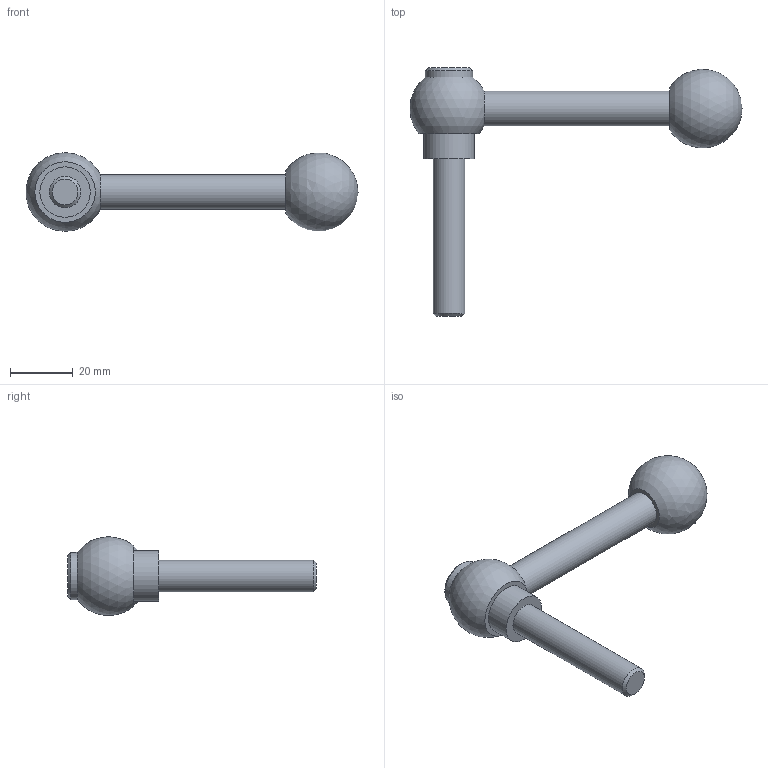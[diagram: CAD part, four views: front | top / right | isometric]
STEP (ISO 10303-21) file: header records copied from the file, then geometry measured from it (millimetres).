
FILE_DESCRIPTION( ( 'STEP AP203' ), '1' );
FILE_NAME( 'C:/Temp/Ganter_Step_05_03_2020/data/2_1/gn_6337_3/gn_6337_3_ms/gn_6337_3_ms_m/Adjustable clamping lever with bolt GN 6337.3-25-M10-50-M.stp', '2020-03-05T11:41:15', ( 'License CC BY-ND 4.0' ), ( 'CADENAS' ), ' ', 'PARTsolutions', ' ' );
FILE_SCHEMA( ( 'CONFIG_CONTROL_DESIGN' ) );
Length unit declared in the file: millimetre
Products named in the file (1): _Adjustable clamping lever with bolt GN 6337.3-25-M10-50-M
Bounding box: 105.41 x 79 x 24.96 mm (x, y, z)
Volume: 26839.4 mm3; surface area: 7734.5 mm2
Topology: 1 solids, 1 shells, 13 faces, 23 edges, 15 vertices
Faces by surface type: plane 5, cylinder 4, cone 2, sphere 2
Full cylindrical faces by diameter (mm): 10 x1, 11 x1, 15 x1, 16 x1
Entity records: 302 total; most frequent: DIRECTION 52, CARTESIAN_POINT 39, AXIS2_PLACEMENT_3D 26, EDGE_LOOP 24, ORIENTED_EDGE 24, FACE_OUTER_BOUND 18, ADVANCED_FACE 13, VERTEX_POINT 13
